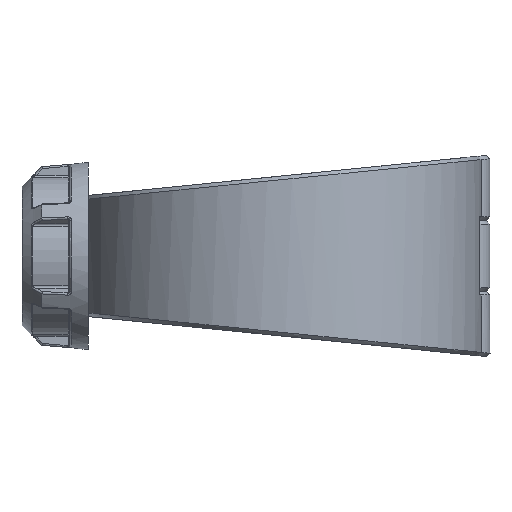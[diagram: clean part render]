
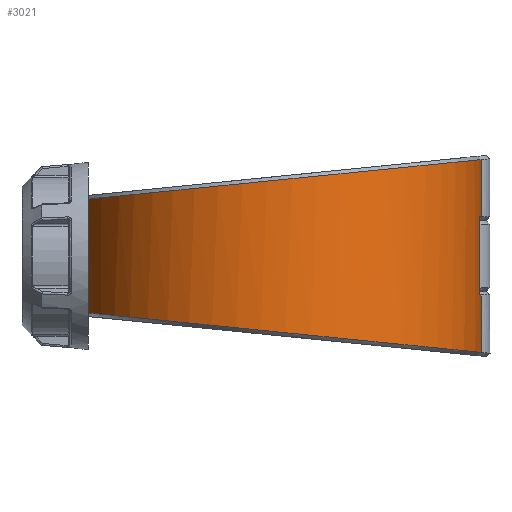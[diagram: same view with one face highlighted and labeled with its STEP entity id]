
A CAD part, left-side view. The second image highlights one B-rep face of the part: STEP entity #3021.
In plain terms, the highlighted cylindrical face has radius 110 mm (diameter 220 mm), a partial arc.
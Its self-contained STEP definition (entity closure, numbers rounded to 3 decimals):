
#212=FACE_OUTER_BOUND('',#416,.T.);
#416=EDGE_LOOP('',(#2055,#2056,#2057,#2058,#2059,#2060,#2061,#2062,#2063,
#2064,#2065,#2066));
#623=CIRCLE('',#3251,110.);
#626=CIRCLE('',#3256,110.);
#805=B_SPLINE_CURVE_WITH_KNOTS('',3,(#4512,#4513,#4514,#4515),
 .UNSPECIFIED.,.F.,.F.,(4,4),(-0.001,0.),.UNSPECIFIED.);
#806=B_SPLINE_CURVE_WITH_KNOTS('',3,(#4517,#4518,#4519,#4520),
 .UNSPECIFIED.,.F.,.F.,(4,4),(-3.049,-3.049),
 .UNSPECIFIED.);
#807=B_SPLINE_CURVE_WITH_KNOTS('',3,(#4521,#4522,#4523,#4524,#4525,#4526,
#4527,#4528,#4529,#4530),.UNSPECIFIED.,.F.,.F.,(4,1,1,1,1,1,1,4),(0.317,
0.656,1.056,1.457,1.857,2.257,
2.657,3.049),.UNSPECIFIED.);
#808=B_SPLINE_CURVE_WITH_KNOTS('',3,(#4532,#4533,#4534,#4535,#4536,#4537,
#4538,#4539,#4540,#4541),.UNSPECIFIED.,.F.,.F.,(4,1,1,1,1,1,1,4),(-3.049,
-2.657,-2.257,-1.857,-1.457,-1.056,
-0.656,-0.317),.UNSPECIFIED.);
#809=B_SPLINE_CURVE_WITH_KNOTS('',3,(#4543,#4544,#4545,#4546),
 .UNSPECIFIED.,.F.,.F.,(4,4),(3.049,3.049),
 .UNSPECIFIED.);
#810=B_SPLINE_CURVE_WITH_KNOTS('',3,(#4548,#4549,#4550,#4551),
 .UNSPECIFIED.,.F.,.F.,(4,4),(-0.361,-0.36),
 .UNSPECIFIED.);
#972=LINE('',#4391,#1093);
#979=LINE('',#4446,#1100);
#985=LINE('',#4510,#1106);
#986=LINE('',#4552,#1107);
#1093=VECTOR('',#3575,10.);
#1100=VECTOR('',#3592,10.);
#1106=VECTOR('',#3638,10.);
#1107=VECTOR('',#3639,10.);
#1216=VERTEX_POINT('',#4376);
#1217=VERTEX_POINT('',#4390);
#1229=VERTEX_POINT('',#4440);
#1230=VERTEX_POINT('',#4445);
#1236=VERTEX_POINT('',#4466);
#1239=VERTEX_POINT('',#4487);
#1243=VERTEX_POINT('',#4509);
#1244=VERTEX_POINT('',#4511);
#1245=VERTEX_POINT('',#4516);
#1246=VERTEX_POINT('',#4531);
#1247=VERTEX_POINT('',#4542);
#1248=VERTEX_POINT('',#4547);
#1510=EDGE_CURVE('',#1216,#1217,#972,.T.);
#1524=EDGE_CURVE('',#1229,#1230,#979,.T.);
#1537=EDGE_CURVE('',#1236,#1229,#623,.T.);
#1542=EDGE_CURVE('',#1230,#1239,#626,.T.);
#1548=EDGE_CURVE('',#1243,#1236,#985,.T.);
#1549=EDGE_CURVE('',#1244,#1243,#805,.T.);
#1550=EDGE_CURVE('',#1244,#1245,#806,.T.);
#1551=EDGE_CURVE('',#1217,#1245,#807,.T.);
#1552=EDGE_CURVE('',#1246,#1216,#808,.T.);
#1553=EDGE_CURVE('',#1246,#1247,#809,.T.);
#1554=EDGE_CURVE('',#1248,#1247,#810,.T.);
#1555=EDGE_CURVE('',#1239,#1248,#986,.T.);
#2055=ORIENTED_EDGE('',*,*,#1542,.F.);
#2056=ORIENTED_EDGE('',*,*,#1524,.F.);
#2057=ORIENTED_EDGE('',*,*,#1537,.F.);
#2058=ORIENTED_EDGE('',*,*,#1548,.F.);
#2059=ORIENTED_EDGE('',*,*,#1549,.F.);
#2060=ORIENTED_EDGE('',*,*,#1550,.T.);
#2061=ORIENTED_EDGE('',*,*,#1551,.F.);
#2062=ORIENTED_EDGE('',*,*,#1510,.F.);
#2063=ORIENTED_EDGE('',*,*,#1552,.F.);
#2064=ORIENTED_EDGE('',*,*,#1553,.T.);
#2065=ORIENTED_EDGE('',*,*,#1554,.F.);
#2066=ORIENTED_EDGE('',*,*,#1555,.F.);
#2962=CYLINDRICAL_SURFACE('',#3261,110.);
#3021=ADVANCED_FACE('',(#212),#2962,.T.);
#3251=AXIS2_PLACEMENT_3D('',#4482,#3614,#3615);
#3256=AXIS2_PLACEMENT_3D('',#4496,#3624,#3625);
#3261=AXIS2_PLACEMENT_3D('',#4508,#3636,#3637);
#3575=DIRECTION('',(0.,0.,1.));
#3592=DIRECTION('',(0.,0.,-1.));
#3614=DIRECTION('center_axis',(0.,0.,-1.));
#3615=DIRECTION('ref_axis',(0.312,-0.95,0.));
#3624=DIRECTION('center_axis',(0.,0.,1.));
#3625=DIRECTION('ref_axis',(0.312,-0.95,0.));
#3636=DIRECTION('center_axis',(0.,0.,1.));
#3637=DIRECTION('ref_axis',(-0.312,0.95,0.));
#3638=DIRECTION('',(0.,0.,-1.));
#3639=DIRECTION('',(0.,0.,-1.));
#4376=CARTESIAN_POINT('',(-34.347,104.5,-30.999));
#4390=CARTESIAN_POINT('',(-34.347,104.5,30.999));
#4391=CARTESIAN_POINT('',(-34.347,104.5,0.));
#4440=CARTESIAN_POINT('',(-17.029,-108.674,21.25));
#4445=CARTESIAN_POINT('',(-17.029,-108.674,-21.25));
#4446=CARTESIAN_POINT('',(-17.029,-108.674,0.));
#4466=CARTESIAN_POINT('',(-10.117,-109.534,21.25));
#4482=CARTESIAN_POINT('Origin',(0.,0.,21.25));
#4487=CARTESIAN_POINT('',(-10.117,-109.534,-21.25));
#4496=CARTESIAN_POINT('Origin',(0.,0.,-21.25));
#4508=CARTESIAN_POINT('Origin',(0.,0.,0.));
#4509=CARTESIAN_POINT('',(-10.117,-109.534,52.505));
#4510=CARTESIAN_POINT('',(-10.117,-109.534,0.));
#4511=CARTESIAN_POINT('',(-10.109,-109.535,52.511));
#4512=CARTESIAN_POINT('Ctrl Pts',(-10.109,-109.535,52.511));
#4513=CARTESIAN_POINT('Ctrl Pts',(-10.111,-109.534,52.509));
#4514=CARTESIAN_POINT('Ctrl Pts',(-10.114,-109.534,52.507));
#4515=CARTESIAN_POINT('Ctrl Pts',(-10.117,-109.534,52.505));
#4516=CARTESIAN_POINT('',(-10.117,-109.534,52.511));
#4517=CARTESIAN_POINT('Ctrl Pts',(-10.109,-109.534,52.511));
#4518=CARTESIAN_POINT('Ctrl Pts',(-10.111,-109.534,52.511));
#4519=CARTESIAN_POINT('Ctrl Pts',(-10.114,-109.534,52.511));
#4520=CARTESIAN_POINT('Ctrl Pts',(-10.117,-109.534,52.511));
#4521=CARTESIAN_POINT('Ctrl Pts',(-34.347,104.498,30.999));
#4522=CARTESIAN_POINT('Ctrl Pts',(-46.173,100.605,31.39));
#4523=CARTESIAN_POINT('Ctrl Pts',(-70.517,87.723,32.682));
#4524=CARTESIAN_POINT('Ctrl Pts',(-98.454,55.447,35.922));
#4525=CARTESIAN_POINT('Ctrl Pts',(-112.264,12.67,40.219));
#4526=CARTESIAN_POINT('Ctrl Pts',(-108.336,-32.076,44.716));
#4527=CARTESIAN_POINT('Ctrl Pts',(-87.284,-71.718,48.704));
#4528=CARTESIAN_POINT('Ctrl Pts',(-52.741,-99.838,51.535));
#4529=CARTESIAN_POINT('Ctrl Pts',(-24.398,-108.213,52.378));
#4530=CARTESIAN_POINT('Ctrl Pts',(-10.117,-109.534,52.511));
#4531=CARTESIAN_POINT('',(-10.117,-109.534,-52.511));
#4532=CARTESIAN_POINT('Ctrl Pts',(-10.117,-109.534,-52.511));
#4533=CARTESIAN_POINT('Ctrl Pts',(-24.398,-108.213,-52.378));
#4534=CARTESIAN_POINT('Ctrl Pts',(-52.735,-99.833,-51.534));
#4535=CARTESIAN_POINT('Ctrl Pts',(-87.293,-71.725,-48.705));
#4536=CARTESIAN_POINT('Ctrl Pts',(-108.325,-32.072,-44.716));
#4537=CARTESIAN_POINT('Ctrl Pts',(-112.275,12.67,-40.219));
#4538=CARTESIAN_POINT('Ctrl Pts',(-98.448,55.445,-35.922));
#4539=CARTESIAN_POINT('Ctrl Pts',(-70.518,87.722,-32.682));
#4540=CARTESIAN_POINT('Ctrl Pts',(-46.173,100.605,-31.39));
#4541=CARTESIAN_POINT('Ctrl Pts',(-34.347,104.498,-30.999));
#4542=CARTESIAN_POINT('',(-10.109,-109.535,-52.511));
#4543=CARTESIAN_POINT('Ctrl Pts',(-10.117,-109.534,-52.511));
#4544=CARTESIAN_POINT('Ctrl Pts',(-10.114,-109.534,-52.511));
#4545=CARTESIAN_POINT('Ctrl Pts',(-10.111,-109.534,-52.511));
#4546=CARTESIAN_POINT('Ctrl Pts',(-10.109,-109.534,-52.511));
#4547=CARTESIAN_POINT('',(-10.117,-109.534,-52.505));
#4548=CARTESIAN_POINT('Ctrl Pts',(-10.117,-109.533,-52.505));
#4549=CARTESIAN_POINT('Ctrl Pts',(-10.114,-109.534,-52.507));
#4550=CARTESIAN_POINT('Ctrl Pts',(-10.111,-109.534,-52.509));
#4551=CARTESIAN_POINT('Ctrl Pts',(-10.108,-109.534,-52.511));
#4552=CARTESIAN_POINT('',(-10.117,-109.534,0.));
